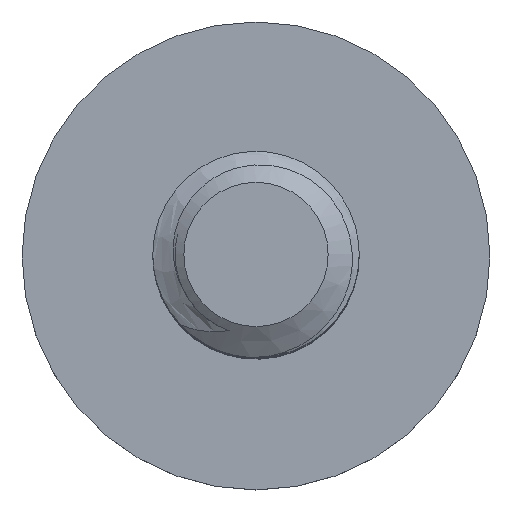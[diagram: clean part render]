
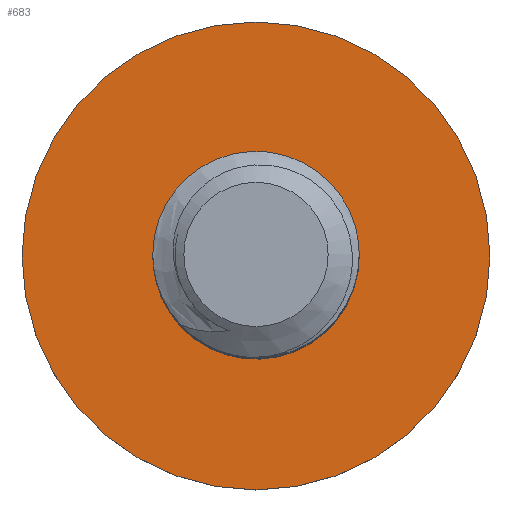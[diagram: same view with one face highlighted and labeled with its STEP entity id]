
A CAD part, top view. The second image highlights one B-rep face of the part: STEP entity #683.
In plain terms, the highlighted planar face has unit normal (0, 0, 1).
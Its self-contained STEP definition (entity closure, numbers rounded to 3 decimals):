
#643=CARTESIAN_POINT('',(6.8,0.0,-25.0));
#644=VERTEX_POINT('',#643);
#645=CARTESIAN_POINT('',(0.0,0.0,-25.0));
#646=DIRECTION('',(0.0,0.0,1.0));
#647=DIRECTION('',(1.0,0.0,0.0));
#648=AXIS2_PLACEMENT_3D('',#645,#646,#647);
#649=CIRCLE('',#648,6.8);
#650=EDGE_CURVE('',#644,#644,#649,.T.);
#655=CARTESIAN_POINT('',(0.0,0.0,-25.0));
#656=DIRECTION('',(0.0,0.0,-1.0));
#657=DIRECTION('',(-1.0,0.0,0.0));
#658=AXIS2_PLACEMENT_3D('',#655,#656,#657);
#659=PLANE('',#658);
#660=ORIENTED_EDGE('',*,*,#650,.T.);
#661=EDGE_LOOP('',(#660));
#662=FACE_OUTER_BOUND('',#661,.T.);
#663=CARTESIAN_POINT('',(-2.102,2.141,-25.));
#664=VERTEX_POINT('',#663);
#665=CARTESIAN_POINT('',(0.,3.,-25.0));
#666=VERTEX_POINT('',#665);
#667=CARTESIAN_POINT('',(0.,0.,-25.0));
#668=DIRECTION('',(0.0,0.0,1.0));
#669=DIRECTION('',(-1.0,0.0,0.0));
#670=AXIS2_PLACEMENT_3D('',#667,#668,#669);
#671=CIRCLE('',#670,3.);
#672=EDGE_CURVE('',#664,#666,#671,.T.);
#673=ORIENTED_EDGE('',*,*,#672,.F.);
#674=CARTESIAN_POINT('',(0.0,0.0,-25.0));
#675=DIRECTION('',(0.0,0.0,1.0));
#676=DIRECTION('',(1.0,0.0,0.0));
#677=AXIS2_PLACEMENT_3D('',#674,#675,#676);
#678=CIRCLE('',#677,3.);
#679=EDGE_CURVE('',#666,#664,#678,.T.);
#680=ORIENTED_EDGE('',*,*,#679,.F.);
#681=EDGE_LOOP('',(#673,#680));
#682=FACE_BOUND('',#681,.T.);
#683=ADVANCED_FACE('',(#662,#682),#659,.F.);
